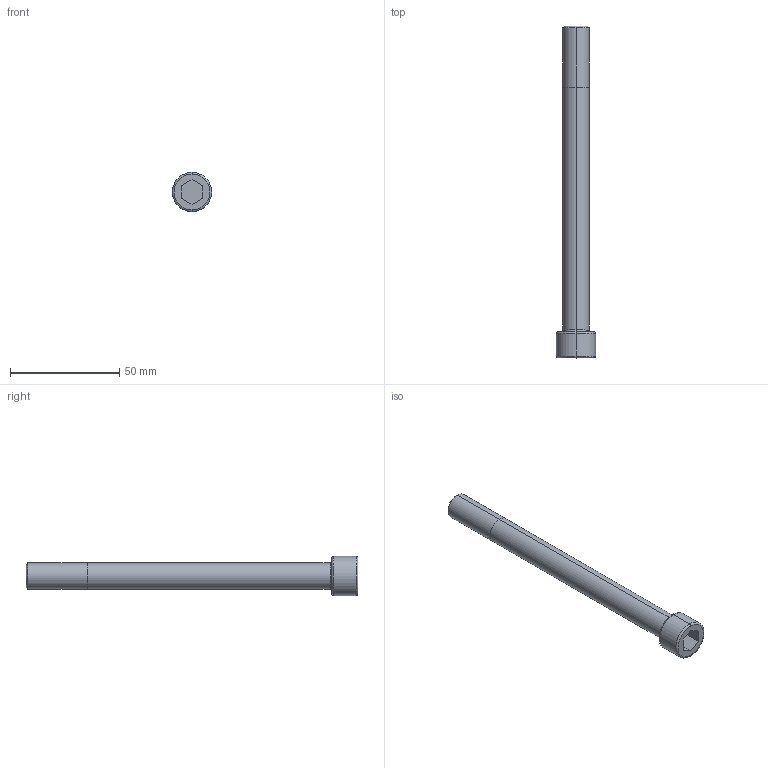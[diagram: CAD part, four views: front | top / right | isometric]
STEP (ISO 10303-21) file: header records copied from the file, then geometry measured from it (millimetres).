
FILE_DESCRIPTION (( 'STEP AP214' ), '1' );
FILE_NAME ('M_12X140.STEP', '2016-03-08T00:40:26', ( '' ), ( '' ), 'SwSTEP 2.0', 'SolidWorks 2014', '' );
FILE_SCHEMA (( 'AUTOMOTIVE_DESIGN' ));
Length unit declared in the file: millimetre
Products named in the file (1): M_12X140
Bounding box: 18 x 152 x 18 mm (x, y, z)
Volume: 18001.9 mm3; surface area: 6741.6 mm2
Topology: 1 solids, 1 shells, 25 faces, 52 edges, 32 vertices
Faces by surface type: plane 11, torus 6, cylinder 6, cone 2
Entity records: 746 total; most frequent: DIRECTION 130, CARTESIAN_POINT 110, ORIENTED_EDGE 104, AXIS2_PLACEMENT_3D 52, EDGE_CURVE 52, VERTEX_POINT 32, EDGE_LOOP 28, LINE 26
